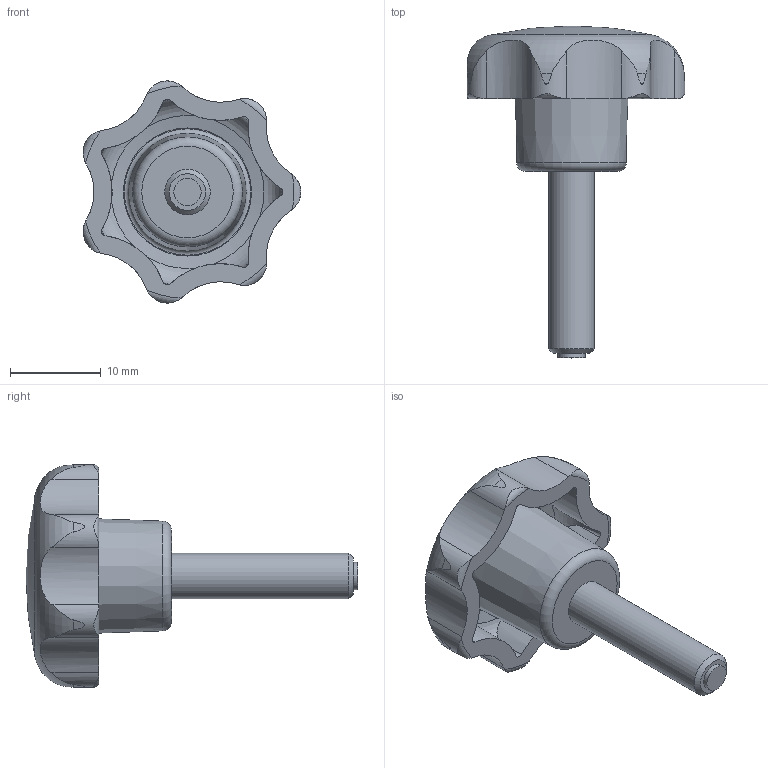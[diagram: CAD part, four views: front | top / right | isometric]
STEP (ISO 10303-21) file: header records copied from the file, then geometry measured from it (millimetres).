
FILE_DESCRIPTION( ( 'STEP AP203' ), '1' );
FILE_NAME( 'C:/Temp/Ganter_Step_05_03_2020/data/2_2/gn6336_10/Star knob GN 6336.10-25-M5-20-MS.stp', '2020-03-05T12:04:06', ( 'License CC BY-ND 4.0' ), ( 'CADENAS' ), ' ', 'PARTsolutions', ' ' );
FILE_SCHEMA( ( 'CONFIG_CONTROL_DESIGN' ) );
Length unit declared in the file: millimetre
Products named in the file (1): _Star knob GN 6336.10-25-M5-20-MS
Bounding box: 23.93 x 36.5 x 24.42 mm (x, y, z)
Volume: 3498.8 mm3; surface area: 2370.3 mm2
Topology: 1 solids, 1 shells, 70 faces, 194 edges, 128 vertices
Faces by surface type: cylinder 30, torus 18, cone 17, plane 4, sphere 1
Full cylindrical faces by diameter (mm): 3 x1, 5 x1
Entity records: 3018 total; most frequent: CARTESIAN_POINT 1333, ORIENTED_EDGE 358, DIRECTION 318, EDGE_CURVE 179, AXIS2_PLACEMENT_3D 145, VERTEX_POINT 124, EDGE_LOOP 82, B_SPLINE_CURVE_WITH_KNOTS 77
